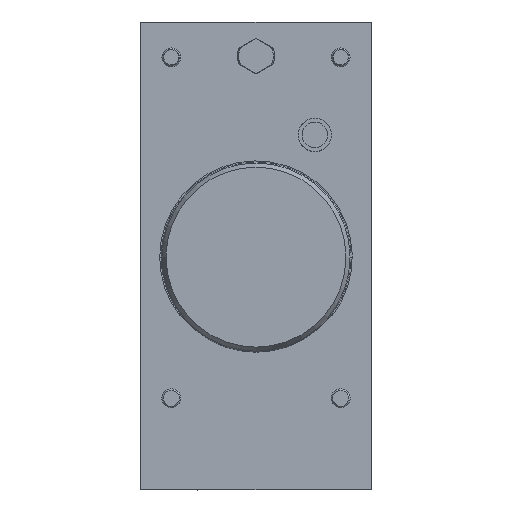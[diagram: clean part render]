
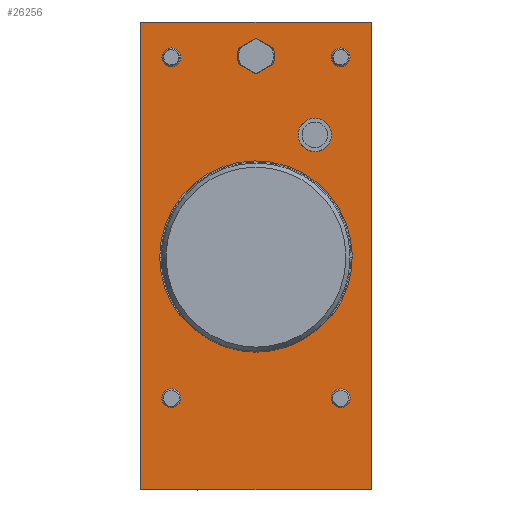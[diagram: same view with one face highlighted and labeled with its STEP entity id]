
A CAD part, left-side view. The second image highlights one B-rep face of the part: STEP entity #26256.
In plain terms, the highlighted planar face has unit normal (-1, 0, 0) as drawn and (0, 1, 0) by its records, which use the part's own axes.
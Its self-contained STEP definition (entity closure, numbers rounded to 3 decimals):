
#6232=VECTOR('',#19032,1.);
#6233=VECTOR('',#19035,1.);
#6240=VECTOR('',#19052,1.);
#6241=VECTOR('',#19053,1.);
#6242=VECTOR('',#19056,1.);
#6243=VECTOR('',#19059,1.);
#6596=LINE('',#24446,#6232);
#6597=LINE('',#24449,#6233);
#6604=LINE('',#24471,#6240);
#6605=LINE('',#24472,#6241);
#6606=LINE('',#24477,#6242);
#6607=LINE('',#24481,#6243);
#8558=ORIENTED_EDGE('',*,*,#10795,.F.);
#8559=ORIENTED_EDGE('',*,*,#10794,.F.);
#8560=ORIENTED_EDGE('',*,*,#10806,.F.);
#8561=ORIENTED_EDGE('',*,*,#10807,.F.);
#8562=ORIENTED_EDGE('',*,*,#10808,.F.);
#8563=ORIENTED_EDGE('',*,*,#10809,.T.);
#8564=ORIENTED_EDGE('',*,*,#10810,.F.);
#8565=ORIENTED_EDGE('',*,*,#10811,.T.);
#8566=ORIENTED_EDGE('',*,*,#10812,.F.);
#8567=ORIENTED_EDGE('',*,*,#10813,.F.);
#9176=CIRCLE('',#25678,7.135);
#9177=CIRCLE('',#25679,39.935);
#9178=CIRCLE('',#25680,40.94);
#9179=CIRCLE('',#25681,40.94);
#9840=VERTEX_POINT('',#24439);
#9842=VERTEX_POINT('',#24444);
#9843=VERTEX_POINT('',#24448);
#9853=VERTEX_POINT('',#24470);
#9854=VERTEX_POINT('',#24473);
#9855=VERTEX_POINT('',#24475);
#9856=VERTEX_POINT('',#24476);
#9857=VERTEX_POINT('',#24478);
#9858=VERTEX_POINT('',#24480);
#9859=VERTEX_POINT('',#24482);
#10794=EDGE_CURVE('',#9842,#9840,#6596,.T.);
#10795=EDGE_CURVE('',#9840,#9843,#6597,.T.);
#10806=EDGE_CURVE('',#9853,#9842,#6604,.T.);
#10807=EDGE_CURVE('',#9843,#9853,#6605,.T.);
#10808=EDGE_CURVE('',#9854,#9854,#9176,.T.);
#10809=EDGE_CURVE('',#9855,#9856,#6606,.T.);
#10810=EDGE_CURVE('',#9857,#9856,#9177,.T.);
#10811=EDGE_CURVE('',#9857,#9858,#6607,.T.);
#10812=EDGE_CURVE('',#9859,#9858,#9178,.T.);
#10813=EDGE_CURVE('',#9855,#9859,#9179,.T.);
#11396=EDGE_LOOP('',(#8558,#8559,#8560,#8561));
#11397=EDGE_LOOP('',(#8562));
#11398=EDGE_LOOP('',(#8563,#8564,#8565,#8566,#8567));
#12016=FACE_BOUND('',#11396,.T.);
#12017=FACE_BOUND('',#11397,.T.);
#12018=FACE_BOUND('',#11398,.T.);
#12339=PLANE('',#25677);
#19032=DIRECTION('',(199.,0.,0.));
#19035=DIRECTION('',(0.,0.,98.));
#19050=DIRECTION('',(0.,1.,0.));
#19051=DIRECTION('',(1.,0.,0.));
#19052=DIRECTION('',(0.,0.,-98.));
#19053=DIRECTION('',(-199.,0.,0.));
#19054=DIRECTION('',(0.,1.,0.));
#19055=DIRECTION('',(0.,0.,7.135));
#19056=DIRECTION('',(0.,0.,1.278));
#19057=DIRECTION('',(0.,1.,0.));
#19058=DIRECTION('',(0.,0.,39.935));
#19059=DIRECTION('',(0.,0.,1.278));
#19060=DIRECTION('',(0.,1.,0.));
#19061=DIRECTION('',(0.,0.,40.94));
#19062=DIRECTION('',(0.,1.,0.));
#19063=DIRECTION('',(0.,0.,40.94));
#24439=CARTESIAN_POINT('',(99.,40.,-49.));
#24444=CARTESIAN_POINT('',(-100.,40.,-49.));
#24446=CARTESIAN_POINT('',(-100.,40.,-49.));
#24448=CARTESIAN_POINT('',(99.,40.,49.));
#24449=CARTESIAN_POINT('',(99.,40.,-49.));
#24469=CARTESIAN_POINT('',(99.,40.,-49.));
#24470=CARTESIAN_POINT('',(-100.,40.,49.));
#24471=CARTESIAN_POINT('',(-100.,40.,49.));
#24472=CARTESIAN_POINT('',(99.,40.,49.));
#24473=CARTESIAN_POINT('',(-52.,40.,-17.865));
#24474=CARTESIAN_POINT('',(-52.,40.,-25.));
#24475=CARTESIAN_POINT('',(25.,40.,-32.42));
#24476=CARTESIAN_POINT('',(25.,40.,-31.142));
#24477=CARTESIAN_POINT('',(25.,40.,-32.42));
#24478=CARTESIAN_POINT('',(25.,40.,31.142));
#24479=CARTESIAN_POINT('',(0.,40.,0.));
#24480=CARTESIAN_POINT('',(25.,40.,32.42));
#24481=CARTESIAN_POINT('',(25.,40.,31.142));
#24482=CARTESIAN_POINT('',(0.,40.,40.94));
#24483=CARTESIAN_POINT('',(0.,40.,0.));
#24484=CARTESIAN_POINT('',(0.,40.,0.));
#25677=AXIS2_PLACEMENT_3D('',#24469,#19050,#19051);
#25678=AXIS2_PLACEMENT_3D('',#24474,#19054,#19055);
#25679=AXIS2_PLACEMENT_3D('',#24479,#19057,#19058);
#25680=AXIS2_PLACEMENT_3D('',#24483,#19060,#19061);
#25681=AXIS2_PLACEMENT_3D('',#24484,#19062,#19063);
#26256=ADVANCED_FACE('',(#12016,#12017,#12018),#12339,.T.);
